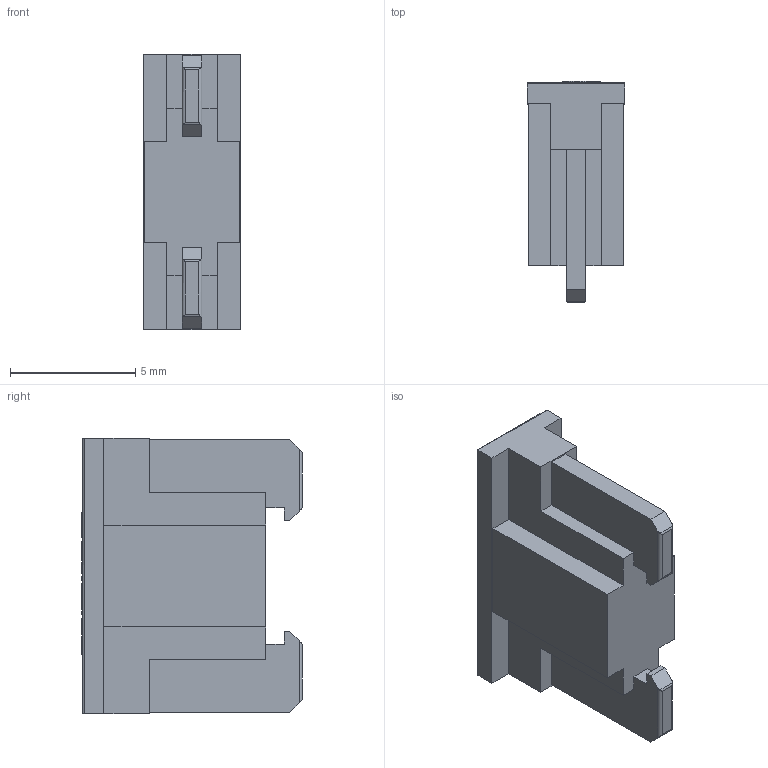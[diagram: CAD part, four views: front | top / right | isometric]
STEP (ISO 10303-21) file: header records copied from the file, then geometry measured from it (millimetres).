
FILE_DESCRIPTION(/* description */ (''),/* implementation_level */ '2;1');
FILE_NAME(/* name */ 'C:\Users\Hani\Desktop\work\ANS-UL\ANS-UL.stp',/* time_stamp */ '2021-10-15T15:28:35-07:00',/* author */ ('Hani'),/* organization */ (''),/* preprocessor_version */ 'ST-DEVELOPER v17',/* originating_system */ 'Autodesk Inventor 2019',/* authorisation */ '');
FILE_SCHEMA (('AUTOMOTIVE_DESIGN { 1 0 10303 214 3 1 1 }'));
Length unit declared in the file: inch
Products named in the file (1): ANS-UL
Bounding box: 3.9 x 8.8 x 11 mm (x, y, z)
Volume: 206.3 mm3; surface area: 322.5 mm2
Topology: 1 solids, 1 shells, 190 faces, 524 edges, 348 vertices
Faces by surface type: plane 111, bspline 67, cylinder 12
Entity records: 6646 total; most frequent: CARTESIAN_POINT 2147, ORIENTED_EDGE 1048, DIRECTION 658, EDGE_CURVE 524, LINE 370, VECTOR 370, VERTEX_POINT 348, EDGE_LOOP 202
